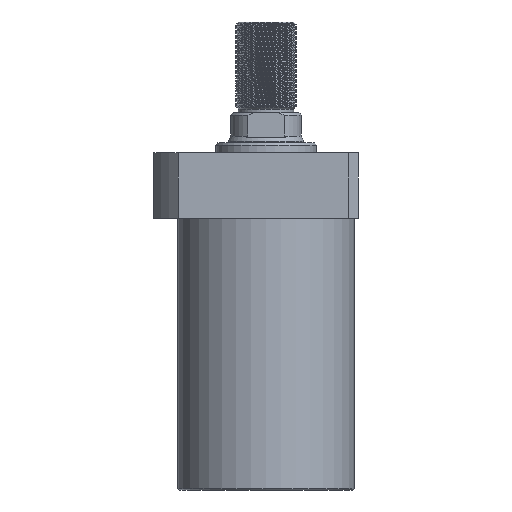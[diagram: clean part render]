
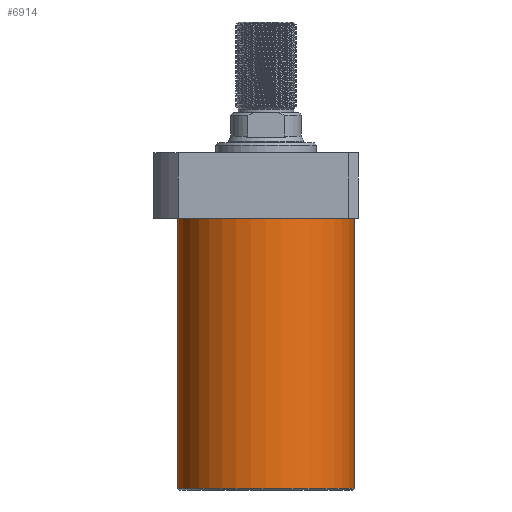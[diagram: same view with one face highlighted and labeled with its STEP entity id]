
A CAD part, front view. The second image highlights one B-rep face of the part: STEP entity #6914.
In plain terms, the highlighted cylindrical face has radius 52.5 mm (diameter 105 mm), a partial arc.
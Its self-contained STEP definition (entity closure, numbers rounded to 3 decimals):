
#423 = LINE ( 'NONE', #3672, #8169 ) ;
#458 = DIRECTION ( 'NONE',  ( -1., 0., 0. ) ) ;
#950 = EDGE_LOOP ( 'NONE', ( #1455, #6868, #3287, #4227 ) ) ;
#1071 = CARTESIAN_POINT ( 'NONE',  ( 0., 0., -19.5 ) ) ;
#1327 = AXIS2_PLACEMENT_3D ( 'NONE', #2962, #6816, #7485 ) ;
#1432 = CARTESIAN_POINT ( 'NONE',  ( 52.5, 0., -180.5 ) ) ;
#1455 = ORIENTED_EDGE ( 'NONE', *, *, #6583, .F. ) ;
#1612 = FACE_OUTER_BOUND ( 'NONE', #950, .T. ) ;
#1724 = DIRECTION ( 'NONE',  ( 1., 0., 0. ) ) ;
#2068 = EDGE_CURVE ( 'NONE', #2118, #7346, #4928, .T. ) ;
#2118 = VERTEX_POINT ( 'NONE', #3693 ) ;
#2931 = VECTOR ( 'NONE', #7548, 1000. ) ;
#2962 = CARTESIAN_POINT ( 'NONE',  ( 0., 0., -181.5 ) ) ;
#3287 = ORIENTED_EDGE ( 'NONE', *, *, #6984, .T. ) ;
#3323 = AXIS2_PLACEMENT_3D ( 'NONE', #8160, #4295, #458 ) ;
#3672 = CARTESIAN_POINT ( 'NONE',  ( -52.5, 0., -181.5 ) ) ;
#3693 = CARTESIAN_POINT ( 'NONE',  ( 52.5, 0., -19.5 ) ) ;
#3696 = DIRECTION ( 'NONE',  ( 0., 0., 1. ) ) ;
#3944 = CARTESIAN_POINT ( 'NONE',  ( -52.5, 0., -19.5 ) ) ;
#4227 = ORIENTED_EDGE ( 'NONE', *, *, #2068, .T. ) ;
#4279 = CARTESIAN_POINT ( 'NONE',  ( 52.5, 0., -181.5 ) ) ;
#4295 = DIRECTION ( 'NONE',  ( 0., 0., 1. ) ) ;
#4869 = AXIS2_PLACEMENT_3D ( 'NONE', #1071, #5580, #1724 ) ;
#4928 = CIRCLE ( 'NONE', #4869, 52.5 ) ;
#5483 = EDGE_CURVE ( 'NONE', #7331, #7388, #7853, .T. ) ;
#5580 = DIRECTION ( 'NONE',  ( 0., 0., -1. ) ) ;
#6362 = CYLINDRICAL_SURFACE ( 'NONE', #1327, 52.5 ) ;
#6513 = CARTESIAN_POINT ( 'NONE',  ( -52.5, 0., -180.5 ) ) ;
#6583 = EDGE_CURVE ( 'NONE', #7331, #7346, #423, .T. ) ;
#6816 = DIRECTION ( 'NONE',  ( 0., 0., 1. ) ) ;
#6868 = ORIENTED_EDGE ( 'NONE', *, *, #5483, .T. ) ;
#6914 = ADVANCED_FACE ( 'NONE', ( #1612 ), #6362, .T. ) ;
#6984 = EDGE_CURVE ( 'NONE', #7388, #2118, #8273, .T. ) ;
#7331 = VERTEX_POINT ( 'NONE', #6513 ) ;
#7346 = VERTEX_POINT ( 'NONE', #3944 ) ;
#7388 = VERTEX_POINT ( 'NONE', #1432 ) ;
#7485 = DIRECTION ( 'NONE',  ( 1., 0., 0. ) ) ;
#7548 = DIRECTION ( 'NONE',  ( 0., 0., 1. ) ) ;
#7853 = CIRCLE ( 'NONE', #3323, 52.5 ) ;
#8160 = CARTESIAN_POINT ( 'NONE',  ( 0., 0., -180.5 ) ) ;
#8169 = VECTOR ( 'NONE', #3696, 1000. ) ;
#8273 = LINE ( 'NONE', #4279, #2931 ) ;
